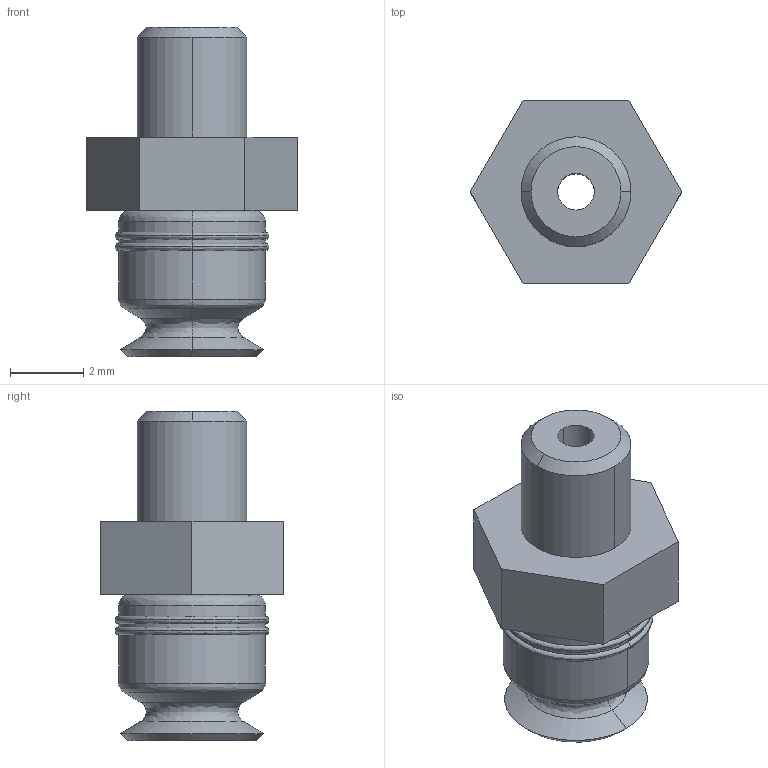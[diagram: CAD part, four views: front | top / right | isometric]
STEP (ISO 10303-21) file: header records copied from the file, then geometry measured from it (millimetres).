
FILE_DESCRIPTION (( 'STEP AP214' ), '1' );
FILE_NAME ('PFYN-3.5-HT1-60.STEP', '2021-06-29T03:23:50', ( '微软用户' ), ( '微软中国' ), 'SwSTEP 2.0', 'SolidWorks 2018', '' );
FILE_SCHEMA (( 'AUTOMOTIVE_DESIGN' ));
Length unit declared in the file: millimetre
Products named in the file (1): PFYN-3.5-HT1-60
Bounding box: 5.77 x 5 x 9 mm (x, y, z)
Volume: 98.5 mm3; surface area: 206 mm2
Topology: 1 solids, 3 shells, 55 faces, 119 edges, 69 vertices
Faces by surface type: bspline 18, cylinder 14, cone 12, plane 11
Entity records: 1921 total; most frequent: CARTESIAN_POINT 722, DIRECTION 252, ORIENTED_EDGE 238, EDGE_CURVE 119, AXIS2_PLACEMENT_3D 104, VERTEX_POINT 69, CIRCLE 66, EDGE_LOOP 60
